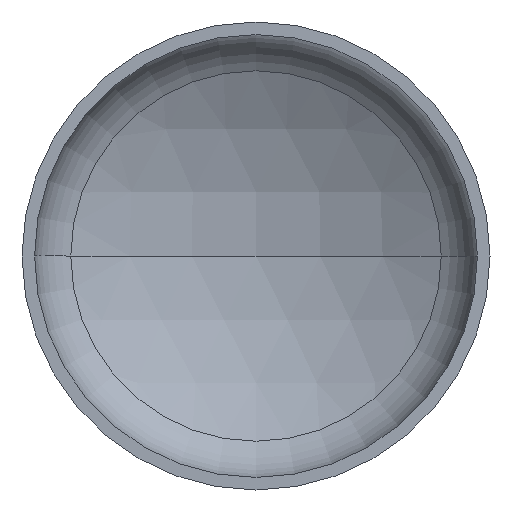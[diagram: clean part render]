
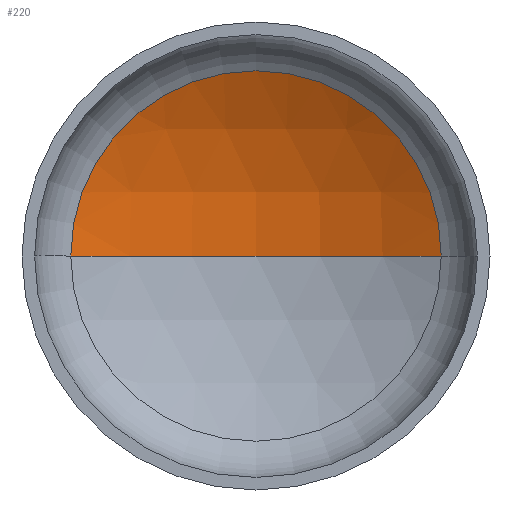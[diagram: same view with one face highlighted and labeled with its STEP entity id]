
A CAD part, front view. The second image highlights one B-rep face of the part: STEP entity #220.
In plain terms, the highlighted spherical face has radius 1280 mm.
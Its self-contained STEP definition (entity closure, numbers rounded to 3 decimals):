
#3 = AXIS2_PLACEMENT_3D ( 'NONE', #283, #135, #310 ) ;
#25 = AXIS2_PLACEMENT_3D ( 'NONE', #145, #151, #149 ) ;
#29 = ORIENTED_EDGE ( 'NONE', *, *, #368, .F. ) ;
#37 = AXIS2_PLACEMENT_3D ( 'NONE', #102, #95, #167 ) ;
#45 = VERTEX_POINT ( 'NONE', #263 ) ;
#51 = CIRCLE ( 'NONE', #37, 633.198 ) ;
#68 = AXIS2_PLACEMENT_3D ( 'NONE', #379, #181, #354 ) ;
#70 = ORIENTED_EDGE ( 'NONE', *, *, #316, .T. ) ;
#75 = ORIENTED_EDGE ( 'NONE', *, *, #329, .T. ) ;
#95 = DIRECTION ( 'NONE',  ( 0., -1., 0. ) ) ;
#97 = EDGE_LOOP ( 'NONE', ( #29, #75, #70 ) ) ;
#100 = VERTEX_POINT ( 'NONE', #213 ) ;
#102 = CARTESIAN_POINT ( 'NONE',  ( 0., 342.923, 0. ) ) ;
#121 = VERTEX_POINT ( 'NONE', #295 ) ;
#130 = FACE_OUTER_BOUND ( 'NONE', #97, .T. ) ;
#135 = DIRECTION ( 'NONE',  ( 0., 0., 1. ) ) ;
#145 = CARTESIAN_POINT ( 'NONE',  ( 0., -769.489, 0. ) ) ;
#149 = DIRECTION ( 'NONE',  ( -1., 0., 0. ) ) ;
#151 = DIRECTION ( 'NONE',  ( 0., 0., -1. ) ) ;
#167 = DIRECTION ( 'NONE',  ( 1., 0., 0. ) ) ;
#181 = DIRECTION ( 'NONE',  ( 0., 0., -1. ) ) ;
#213 = CARTESIAN_POINT ( 'NONE',  ( -633.198, 342.923, 0. ) ) ;
#220 = ADVANCED_FACE ( 'NONE', ( #130 ), #330, .F. ) ;
#263 = CARTESIAN_POINT ( 'NONE',  ( 633.198, 342.923, 0. ) ) ;
#283 = CARTESIAN_POINT ( 'NONE',  ( 0., -769.489, 0. ) ) ;
#295 = CARTESIAN_POINT ( 'NONE',  ( 0., 510.511, 0. ) ) ;
#310 = DIRECTION ( 'NONE',  ( 1., 0., 0. ) ) ;
#316 = EDGE_CURVE ( 'NONE', #45, #100, #51, .T. ) ;
#329 = EDGE_CURVE ( 'NONE', #121, #45, #361, .T. ) ;
#330 = SPHERICAL_SURFACE ( 'NONE', #68, 1280. ) ;
#353 = CIRCLE ( 'NONE', #3, 1280. ) ;
#354 = DIRECTION ( 'NONE',  ( -1., 0., 0. ) ) ;
#361 = CIRCLE ( 'NONE', #25, 1280. ) ;
#368 = EDGE_CURVE ( 'NONE', #121, #100, #353, .T. ) ;
#379 = CARTESIAN_POINT ( 'NONE',  ( 0., -769.489, 0. ) ) ;
